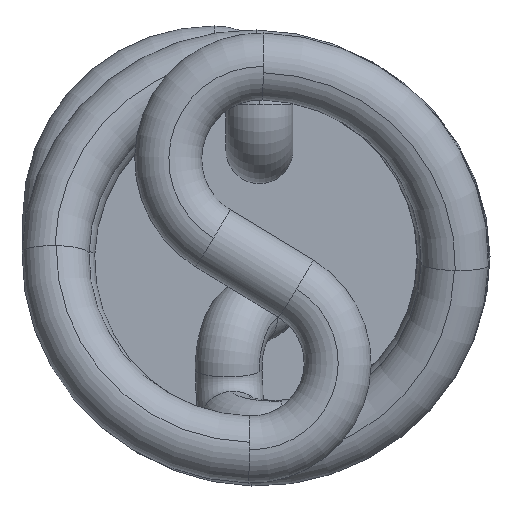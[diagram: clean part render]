
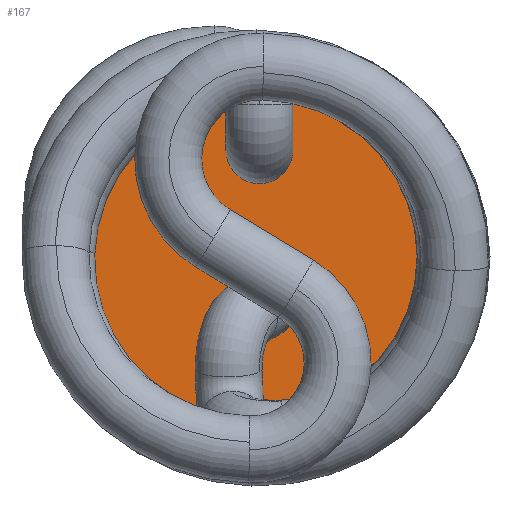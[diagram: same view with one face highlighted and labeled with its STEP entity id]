
A CAD part, left-side view. The second image highlights one B-rep face of the part: STEP entity #167.
In plain terms, the highlighted planar face has unit normal (-1, 0, 0).
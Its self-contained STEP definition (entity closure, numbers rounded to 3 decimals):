
#158=FACE_BOUND('',#319,.F.);
#159=FACE_BOUND('',#320,.F.);
#161=PLANE('',#2056);
#167=ADVANCED_FACE('',(#158,#159,#243),#161,.T.);
#243=FACE_OUTER_BOUND('',#321,.F.);
#319=EDGE_LOOP('',(#404,#405));
#320=EDGE_LOOP('',(#406,#407));
#321=EDGE_LOOP('',(#408,#409));
#404=ORIENTED_EDGE('',*,*,#1305,.T.);
#405=ORIENTED_EDGE('',*,*,#1304,.T.);
#406=ORIENTED_EDGE('',*,*,#1307,.T.);
#407=ORIENTED_EDGE('',*,*,#1306,.T.);
#408=ORIENTED_EDGE('',*,*,#1314,.F.);
#409=ORIENTED_EDGE('',*,*,#1308,.F.);
#1300=B_SPLINE_CURVE_WITH_KNOTS('',3,(#2836,#2837,#2838,#2839,#2840,#2841,
#2842,#2843,#2844,#2845,#2846,#2847,#2848,#2849,#2850,#2851,#2852,#2853,
#2854),.UNSPECIFIED.,.F.,.F.,(4,1,1,1,1,1,1,1,1,1,1,1,1,1,1,1,4),(0.,0.073,
0.125,0.188,0.25,0.313,0.375,
0.437,0.5,0.562,0.625,
0.687,0.75,0.812,0.875,0.927,
1.),.UNSPECIFIED.);
#1301=B_SPLINE_CURVE_WITH_KNOTS('',3,(#2855,#2856,#2857,#2858,#2859,#2860,
#2861,#2862,#2863,#2864,#2865,#2866,#2867,#2868,#2869,#2870,#2871,#2872,
#2873),.UNSPECIFIED.,.F.,.F.,(4,1,1,1,1,1,1,1,1,1,1,1,1,1,1,1,4),(0.,0.073,
0.125,0.188,0.25,0.313,
0.375,0.437,0.5,0.562,
0.625,0.688,0.75,0.813,0.875,
0.927,1.),.UNSPECIFIED.);
#1304=EDGE_CURVE('',#1852,#1851,#1300,.T.);
#1305=EDGE_CURVE('',#1851,#1852,#1301,.T.);
#1306=EDGE_CURVE('',#1850,#1849,#1518,.T.);
#1307=EDGE_CURVE('',#1849,#1850,#1519,.T.);
#1308=EDGE_CURVE('',#1848,#1847,#1520,.T.);
#1314=EDGE_CURVE('',#1847,#1848,#1524,.T.);
#1518=CIRCLE('',#1859,8.5);
#1519=CIRCLE('',#1860,8.5);
#1520=CIRCLE('',#1861,44.);
#1524=CIRCLE('',#1865,44.);
#1847=VERTEX_POINT('',#2826);
#1848=VERTEX_POINT('',#2827);
#1849=VERTEX_POINT('',#2828);
#1850=VERTEX_POINT('',#2829);
#1851=VERTEX_POINT('',#2830);
#1852=VERTEX_POINT('',#2831);
#1859=AXIS2_PLACEMENT_3D('',#2874,#2136,#2137);
#1860=AXIS2_PLACEMENT_3D('',#2875,#2138,#2139);
#1861=AXIS2_PLACEMENT_3D('',#2876,#2140,#2141);
#1865=AXIS2_PLACEMENT_3D('',#2882,#2150,#2151);
#2056=AXIS2_PLACEMENT_3D('',#3269,#2544,#2545);
#2136=DIRECTION('',(-1.,0.,0.));
#2137=DIRECTION('',(0.,0.,1.));
#2138=DIRECTION('',(-1.,0.,0.));
#2139=DIRECTION('',(0.,0.,-1.));
#2140=DIRECTION('',(-1.,0.,0.));
#2141=DIRECTION('',(0.,-1.,0.));
#2150=DIRECTION('',(-1.,0.,0.));
#2151=DIRECTION('',(0.,1.,0.));
#2544=DIRECTION('',(-1.,0.,0.));
#2545=DIRECTION('',(0.,0.,1.));
#2826=CARTESIAN_POINT('',(4590.441,-3917.578,4377.724));
#2827=CARTESIAN_POINT('',(4590.441,-4005.578,4377.724));
#2828=CARTESIAN_POINT('',(4590.441,-3961.578,4396.224));
#2829=CARTESIAN_POINT('',(4590.441,-3961.578,4413.224));
#2830=CARTESIAN_POINT('',(4590.441,-3958.992,4373.133));
#2831=CARTESIAN_POINT('',(4590.441,-3966.368,4357.808));
#2836=CARTESIAN_POINT('',(4590.441,-3966.368,4357.808));
#2837=CARTESIAN_POINT('',(4590.441,-3966.953,4358.091));
#2838=CARTESIAN_POINT('',(4590.441,-3967.898,4358.69));
#2839=CARTESIAN_POINT('',(4590.441,-3969.115,4359.845));
#2840=CARTESIAN_POINT('',(4590.441,-3970.051,4361.125));
#2841=CARTESIAN_POINT('',(4590.441,-3970.759,4362.647));
#2842=CARTESIAN_POINT('',(4590.441,-3971.157,4364.278));
#2843=CARTESIAN_POINT('',(4590.441,-3971.23,4365.955));
#2844=CARTESIAN_POINT('',(4590.441,-3970.974,4367.614));
#2845=CARTESIAN_POINT('',(4590.441,-3970.398,4369.192));
#2846=CARTESIAN_POINT('',(4590.441,-3969.526,4370.626));
#2847=CARTESIAN_POINT('',(4590.441,-3968.39,4371.862));
#2848=CARTESIAN_POINT('',(4590.441,-3967.034,4372.853));
#2849=CARTESIAN_POINT('',(4590.441,-3965.511,4373.559));
#2850=CARTESIAN_POINT('',(4590.441,-3963.88,4373.954));
#2851=CARTESIAN_POINT('',(4590.441,-3962.295,4374.019));
#2852=CARTESIAN_POINT('',(4590.441,-3960.634,4373.785));
#2853=CARTESIAN_POINT('',(4590.441,-3959.577,4373.416));
#2854=CARTESIAN_POINT('',(4590.441,-3958.992,4373.133));
#2855=CARTESIAN_POINT('',(4590.441,-3958.992,4373.133));
#2856=CARTESIAN_POINT('',(4590.441,-3958.405,4372.849));
#2857=CARTESIAN_POINT('',(4590.441,-3957.456,4372.247));
#2858=CARTESIAN_POINT('',(4590.441,-3956.237,4371.084));
#2859=CARTESIAN_POINT('',(4590.441,-3955.302,4369.799));
#2860=CARTESIAN_POINT('',(4590.441,-3954.594,4368.274));
#2861=CARTESIAN_POINT('',(4590.441,-3954.192,4366.642));
#2862=CARTESIAN_POINT('',(4590.441,-3954.109,4364.964));
#2863=CARTESIAN_POINT('',(4590.441,-3954.35,4363.3));
#2864=CARTESIAN_POINT('',(4590.442,-3954.913,4361.714));
#2865=CARTESIAN_POINT('',(4590.441,-3955.785,4360.272));
#2866=CARTESIAN_POINT('',(4590.441,-3956.933,4359.038));
#2867=CARTESIAN_POINT('',(4590.441,-3958.302,4358.057));
#2868=CARTESIAN_POINT('',(4590.441,-3959.834,4357.361));
#2869=CARTESIAN_POINT('',(4590.441,-3961.471,4356.976));
#2870=CARTESIAN_POINT('',(4590.441,-3963.059,4356.917));
#2871=CARTESIAN_POINT('',(4590.441,-3964.723,4357.154));
#2872=CARTESIAN_POINT('',(4590.441,-3965.782,4357.525));
#2873=CARTESIAN_POINT('',(4590.441,-3966.368,4357.808));
#2874=CARTESIAN_POINT('',(4590.441,-3961.578,4404.724));
#2875=CARTESIAN_POINT('',(4590.441,-3961.578,4404.724));
#2876=CARTESIAN_POINT('',(4590.441,-3961.578,4377.724));
#2882=CARTESIAN_POINT('',(4590.441,-3961.578,4377.724));
#3269=CARTESIAN_POINT('',(4590.441,-4006.458,4332.844));
